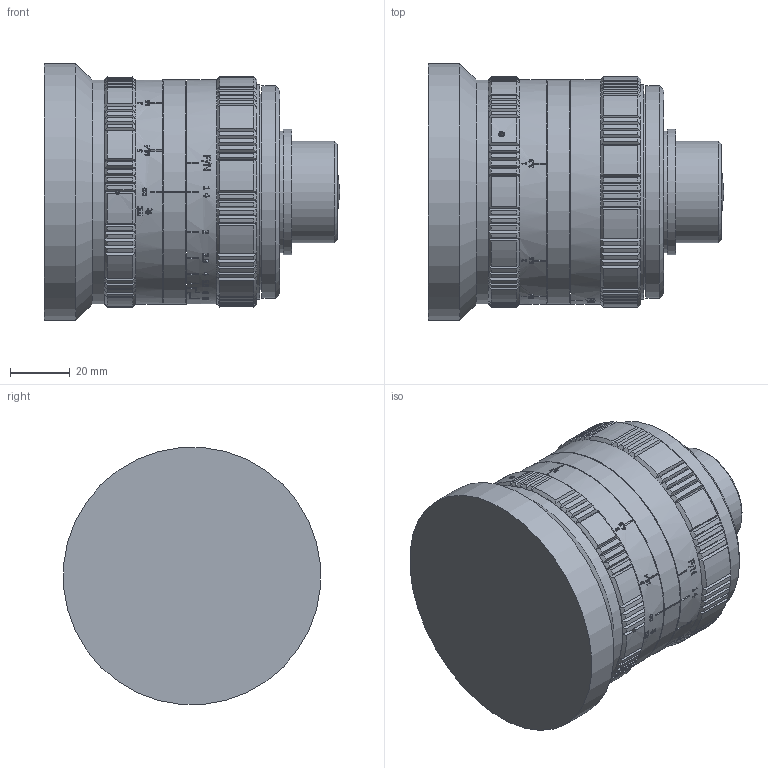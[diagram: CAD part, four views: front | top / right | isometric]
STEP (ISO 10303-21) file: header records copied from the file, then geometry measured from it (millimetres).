
FILE_DESCRIPTION((''),'2;1');
FILE_NAME('\\OPTECSERVER3\Doc Produ\Meccaniche\STP\A_2008\C0808\C0808_000\C0808_003.stp','2014-04-28T11:07:11',('mcilia'),(''),'Autodesk Inventor 2010','Autodesk Inventor 2010','');
FILE_SCHEMA(('AUTOMOTIVE_DESIGN { 1 0 10303 214 1 1 1 1 }'));
Length unit declared in the file: millimetre
Products named in the file (2): C0808_003_000 (Livello di dettaglio sostituto1); C0808_003
Assembly tree (1 placements, depth 2):
  C0808_003_000 (Livello di dettaglio sostituto1)
    C0808_003
Bounding box: 98.63 x 85.68 x 85.68 mm (x, y, z)
Surface area: 73161.8 mm2 (no closed solid volume)
Topology: 0 solids, 27 shells, 626 faces, 2049 edges, 1441 vertices
Faces by surface type: plane 254, cone 225, cylinder 133, bspline 13, sphere 1
Full cylindrical faces by diameter (mm): 2 x1, 30 x1, 34 x1, 40.7 x1, 42 x1, 65.5 x1, 71 x1, 71.5 x1, 75 x3, 86 x1
Entity records: 31879 total; most frequent: CARTESIAN_POINT 15050, ORIENTED_EDGE 3249, DIRECTION 3141, EDGE_CURVE 2020, VERTEX_POINT 1436, AXIS2_PLACEMENT_3D 1277, EDGE_LOOP 709, CIRCLE 649
